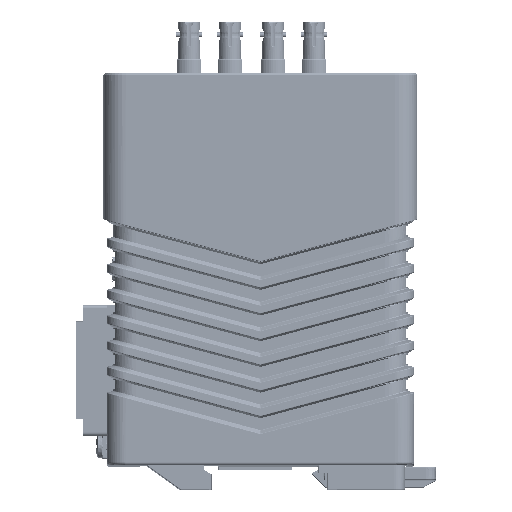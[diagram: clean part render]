
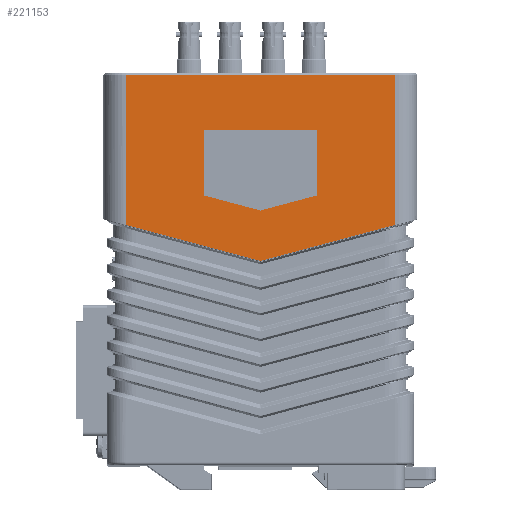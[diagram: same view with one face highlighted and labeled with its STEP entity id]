
A CAD part, left-side view. The second image highlights one B-rep face of the part: STEP entity #221153.
In plain terms, the highlighted planar face has unit normal (-1, 0, 0).
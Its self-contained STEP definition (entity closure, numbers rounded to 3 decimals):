
#7657 = DIRECTION ( 'NONE',  ( 0., -0.966, 0.259 ) ) ;
#9316 = EDGE_LOOP ( 'NONE', ( #94180, #313322, #114308, #122872, #396503 ) ) ;
#29377 = VERTEX_POINT ( 'NONE', #154919 ) ;
#37986 = CARTESIAN_POINT ( 'NONE',  ( -28.535, 41.895, 0.25 ) ) ;
#46458 = CARTESIAN_POINT ( 'NONE',  ( -28.535, -17.503, -17.482 ) ) ;
#50726 = DIRECTION ( 'NONE',  ( 0., 0., -1. ) ) ;
#56178 = EDGE_CURVE ( 'NONE', #158830, #256530, #174760, .T. ) ;
#63924 = DIRECTION ( 'NONE',  ( 0., 0., 1. ) ) ;
#65767 = CARTESIAN_POINT ( 'NONE',  ( -28.535, 17.503, -37.817 ) ) ;
#65873 = EDGE_CURVE ( 'NONE', #115552, #88313, #103676, .T. ) ;
#66099 = CARTESIAN_POINT ( 'NONE',  ( -28.535, -17.503, -37.817 ) ) ;
#69567 = VECTOR ( 'NONE', #289626, 1000. ) ;
#77795 = EDGE_CURVE ( 'NONE', #119729, #115552, #339722, .T. ) ;
#80249 = AXIS2_PLACEMENT_3D ( 'NONE', #37986, #344630, #336030 ) ;
#86335 = DIRECTION ( 'NONE',  ( 0., -0.966, -0.259 ) ) ;
#87260 = CARTESIAN_POINT ( 'NONE',  ( -28.535, -17.503, -37.817 ) ) ;
#88313 = VERTEX_POINT ( 'NONE', #265483 ) ;
#92529 = LINE ( 'NONE', #199766, #69567 ) ;
#94180 = ORIENTED_EDGE ( 'NONE', *, *, #127714, .T. ) ;
#99410 = CARTESIAN_POINT ( 'NONE',  ( -28.535, -17.503, -17.482 ) ) ;
#100131 = CARTESIAN_POINT ( 'NONE',  ( -28.535, -41.895, -46.965 ) ) ;
#102202 = LINE ( 'NONE', #207365, #105171 ) ;
#103676 = LINE ( 'NONE', #99410, #270754 ) ;
#105171 = VECTOR ( 'NONE', #240224, 1000. ) ;
#112753 = LINE ( 'NONE', #176487, #249836 ) ;
#114308 = ORIENTED_EDGE ( 'NONE', *, *, #160354, .T. ) ;
#115552 = VERTEX_POINT ( 'NONE', #46458 ) ;
#119729 = VERTEX_POINT ( 'NONE', #87260 ) ;
#122872 = ORIENTED_EDGE ( 'NONE', *, *, #298575, .F. ) ;
#127714 = EDGE_CURVE ( 'NONE', #282370, #337443, #102202, .T. ) ;
#134722 = CARTESIAN_POINT ( 'NONE',  ( -28.535, 0., -42.506 ) ) ;
#140281 = CARTESIAN_POINT ( 'NONE',  ( -28.535, -41.895, 0.25 ) ) ;
#145244 = PLANE ( 'NONE',  #80249 ) ;
#146188 = VECTOR ( 'NONE', #263994, 1000. ) ;
#154919 = CARTESIAN_POINT ( 'NONE',  ( -28.535, -41.895, -0.354 ) ) ;
#155899 = LINE ( 'NONE', #350909, #165397 ) ;
#158830 = VERTEX_POINT ( 'NONE', #65767 ) ;
#160354 = EDGE_CURVE ( 'NONE', #377033, #211386, #112753, .T. ) ;
#165397 = VECTOR ( 'NONE', #50726, 1000. ) ;
#174760 = LINE ( 'NONE', #238228, #230690 ) ;
#176487 = CARTESIAN_POINT ( 'NONE',  ( -28.535, -41.83, -46.983 ) ) ;
#180293 = VECTOR ( 'NONE', #208223, 1000. ) ;
#181207 = VECTOR ( 'NONE', #433020, 1000. ) ;
#187813 = ORIENTED_EDGE ( 'NONE', *, *, #56178, .F. ) ;
#199766 = CARTESIAN_POINT ( 'NONE',  ( -28.535, 41.895, -0.354 ) ) ;
#204569 = DIRECTION ( 'NONE',  ( 0., 1., 0. ) ) ;
#207018 = CARTESIAN_POINT ( 'NONE',  ( -28.535, 41.895, -46.965 ) ) ;
#207365 = CARTESIAN_POINT ( 'NONE',  ( -28.535, 41.895, 0.25 ) ) ;
#208223 = DIRECTION ( 'NONE',  ( 0., 0., -1. ) ) ;
#211386 = VERTEX_POINT ( 'NONE', #100131 ) ;
#220082 = ORIENTED_EDGE ( 'NONE', *, *, #77795, .F. ) ;
#221153 = ADVANCED_FACE ( 'NONE', ( #270176, #377394 ), #145244, .F. ) ;
#225668 = EDGE_CURVE ( 'NONE', #337443, #377033, #328065, .T. ) ;
#230690 = VECTOR ( 'NONE', #86335, 1000. ) ;
#238228 = CARTESIAN_POINT ( 'NONE',  ( -28.535, 17.503, -37.817 ) ) ;
#240224 = DIRECTION ( 'NONE',  ( 0., 0., -1. ) ) ;
#245603 = ORIENTED_EDGE ( 'NONE', *, *, #65873, .F. ) ;
#249836 = VECTOR ( 'NONE', #7657, 1000. ) ;
#256530 = VERTEX_POINT ( 'NONE', #332370 ) ;
#261631 = VECTOR ( 'NONE', #63924, 1000. ) ;
#263994 = DIRECTION ( 'NONE',  ( 0., -0.966, 0.259 ) ) ;
#265483 = CARTESIAN_POINT ( 'NONE',  ( -28.535, 17.503, -17.482 ) ) ;
#270176 = FACE_BOUND ( 'NONE', #363830, .T. ) ;
#270754 = VECTOR ( 'NONE', #204569, 1000. ) ;
#282370 = VERTEX_POINT ( 'NONE', #285687 ) ;
#285687 = CARTESIAN_POINT ( 'NONE',  ( -28.535, 41.895, -0.354 ) ) ;
#289626 = DIRECTION ( 'NONE',  ( 0., 1., 0. ) ) ;
#298575 = EDGE_CURVE ( 'NONE', #29377, #211386, #405239, .T. ) ;
#301216 = CARTESIAN_POINT ( 'NONE',  ( -28.535, 0., -58.191 ) ) ;
#313322 = ORIENTED_EDGE ( 'NONE', *, *, #225668, .T. ) ;
#317603 = ORIENTED_EDGE ( 'NONE', *, *, #352139, .F. ) ;
#323508 = EDGE_CURVE ( 'NONE', #88313, #158830, #155899, .T. ) ;
#328065 = LINE ( 'NONE', #398030, #181207 ) ;
#332370 = CARTESIAN_POINT ( 'NONE',  ( -28.535, 0., -42.506 ) ) ;
#336030 = DIRECTION ( 'NONE',  ( 0., 0., -1. ) ) ;
#337443 = VERTEX_POINT ( 'NONE', #207018 ) ;
#339722 = LINE ( 'NONE', #66099, #261631 ) ;
#344630 = DIRECTION ( 'NONE',  ( 1., 0., 0. ) ) ;
#350909 = CARTESIAN_POINT ( 'NONE',  ( -28.535, 17.503, -17.482 ) ) ;
#352139 = EDGE_CURVE ( 'NONE', #256530, #119729, #366859, .T. ) ;
#363830 = EDGE_LOOP ( 'NONE', ( #365990, #245603, #220082, #317603, #187813 ) ) ;
#365990 = ORIENTED_EDGE ( 'NONE', *, *, #323508, .F. ) ;
#366859 = LINE ( 'NONE', #134722, #146188 ) ;
#377033 = VERTEX_POINT ( 'NONE', #301216 ) ;
#377394 = FACE_OUTER_BOUND ( 'NONE', #9316, .T. ) ;
#396503 = ORIENTED_EDGE ( 'NONE', *, *, #415972, .T. ) ;
#398030 = CARTESIAN_POINT ( 'NONE',  ( -28.535, -0.065, -58.209 ) ) ;
#405239 = LINE ( 'NONE', #140281, #180293 ) ;
#415972 = EDGE_CURVE ( 'NONE', #29377, #282370, #92529, .T. ) ;
#433020 = DIRECTION ( 'NONE',  ( 0., -0.966, -0.259 ) ) ;
